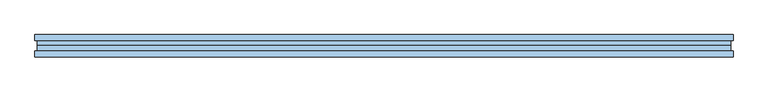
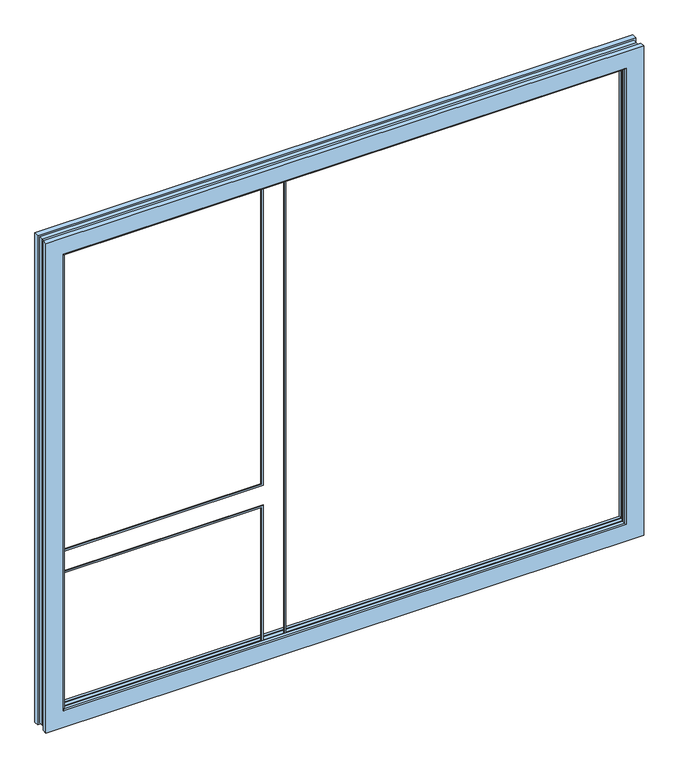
"""IFC4 building model written with IfcOpenShell, lengths in millimetres: window geometry, windowss9000gealanturntiltwindowsublightfixedwindow : windowss9000 2.60 x 2.25."""

import ifcopenshell
import ifcopenshell.guid

model = None  # the IFC model being written
_history = None  # IfcOwnerHistory: only IFC2X3 demands one
_inside = {}  # id of a spatial element -> (the spatial element, [elements in it])
_under = {}  # id of a project, library or spatial element -> (it, [spatial elements below it])
_declared = {}  # id of a project -> (the project, [libraries it declares])
_typed = {}  # id of a type object -> (the type object, [elements of that type])
_made_of = {}  # id of a material, layer set ... -> (it, [elements and type objects made of it])


def new_model(schema):
    """Start an empty IFC model of exactly this schema.

    Asked for "IFC4X3", IfcOpenShell would pick the latest addendum, in which some entities
    have other attributes; the version numbers below select the first issue.
    IFC2X3 requires an IfcOwnerHistory on every rooted entity: one is made here for all.
    """
    global model, _history
    if schema == "IFC4X3":
        model = ifcopenshell.file(schema_version=(4, 3, 0, 0))
    else:
        model = ifcopenshell.file(schema=schema)
    _inside.clear()
    _under.clear()
    _declared.clear()
    _typed.clear()
    _made_of.clear()
    _history = None
    if model.schema == "IFC2X3":
        org = make("IfcOrganization", Name="unknown")
        user = make(
            "IfcPersonAndOrganization",
            ThePerson=make("IfcPerson", FamilyName="unknown"),
            TheOrganization=org,
        )
        app = make(
            "IfcApplication",
            ApplicationDeveloper=org,
            Version="unknown",
            ApplicationFullName="unknown",
            ApplicationIdentifier="unknown",
        )
        _history = make(
            "IfcOwnerHistory",
            OwningUser=user,
            OwningApplication=app,
            ChangeAction="ADDED",
            CreationDate=0,
        )
    return model


def make(cls, **values):
    """One entity of the class cls with the attributes given. An attribute that is None is left unset."""
    return model.create_entity(
        cls, **{name: value for name, value in values.items() if value is not None}
    )


def rooted(cls, **values):
    """An entity with a GlobalId (a new one), such as an element, a storey or a relation."""
    return make(cls, GlobalId=ifcopenshell.guid.new(), OwnerHistory=_history, **values)


def si_unit(unit_type, name, prefix=None):
    """IfcSIUnit, for example si_unit("LENGTHUNIT", "METRE", prefix="MILLI")."""
    return make("IfcSIUnit", UnitType=unit_type, Prefix=prefix, Name=name)


def assignment(units):
    """IfcUnitAssignment: the units of a project."""
    return None if units is None else make("IfcUnitAssignment", Units=units)


def point(xyz):
    """IfcCartesianPoint."""
    return None if xyz is None else make("IfcCartesianPoint", Coordinates=xyz)


def direction(xyz):
    """IfcDirection."""
    return None if xyz is None else make("IfcDirection", DirectionRatios=xyz)


def frame(location, z_axis=None, x_axis=None):
    """IfcAxis2Placement3D, a coordinate frame: its origin and axes. An axis left out is left unset."""
    return make(
        "IfcAxis2Placement3D",
        Location=point(location),
        Axis=direction(z_axis),
        RefDirection=direction(x_axis),
    )


def origin():
    """The frame at (0, 0, 0) with its axes left unset."""
    return frame((0.0, 0.0, 0.0))


def place(relative_to, where):
    """IfcLocalPlacement: puts the frame where relative to a parent placement (None: the world)."""
    return make(
        "IfcLocalPlacement", PlacementRelTo=relative_to, RelativePlacement=where
    )


def context(
    kind, dimensions, precision=None, world=None, true_north=None, identifier=None
):
    """IfcGeometricRepresentationContext, for example the 3D "Model" context."""
    return make(
        "IfcGeometricRepresentationContext",
        ContextIdentifier=identifier,
        ContextType=kind,
        CoordinateSpaceDimension=dimensions,
        Precision=precision,
        WorldCoordinateSystem=world,
        TrueNorth=true_north,
    )


def project(units=None, contexts=None):
    """IfcProject with its units and contexts."""
    return rooted(
        "IfcProject",
        Name="project",
        RepresentationContexts=contexts,
        UnitsInContext=assignment(units),
    )


def spatial(cls, under=None, at=None, **own):
    """A site, building, storey or space (cls), placed at a placement, below another one or the project."""
    s = rooted(cls, ObjectPlacement=at, **own)
    if under is not None:
        _under.setdefault(under.id(), (under, []))[1].append(s)
    return s


def polyline(points):
    """IfcPolyline through the points."""
    return make("IfcPolyline", Points=[point(p) for p in points])


def ellipse_curve(where, semi_axis1, semi_axis2):
    """IfcEllipse in the frame where."""
    return make(
        "IfcEllipse", Position=where, SemiAxis1=semi_axis1, SemiAxis2=semi_axis2
    )


def outline(outer, holes=None, kind="AREA"):
    """IfcArbitraryClosedProfileDef: a profile drawn as a closed curve; with holes, ...WithVoids."""
    if holes is None:
        return make("IfcArbitraryClosedProfileDef", ProfileType=kind, OuterCurve=outer)
    return make(
        "IfcArbitraryProfileDefWithVoids",
        ProfileType=kind,
        OuterCurve=outer,
        InnerCurves=holes,
    )


def extrude(swept, where, along, depth):
    """IfcExtrudedAreaSolid: the profile swept, set in the frame where, extruded along a direction by depth."""
    return make(
        "IfcExtrudedAreaSolid",
        SweptArea=swept,
        Position=where,
        ExtrudedDirection=direction(along),
        Depth=depth,
    )


def faces_of(points, faces, orient=None, outer=None):
    """IfcFace entities. A face is a list of loops; a loop is a list of indices into points, from 0.

    orient and outer hold one flag for each loop. By default every Orientation is true, the
    first loop of a face is its IfcFaceOuterBound and the others are IfcFaceBound.
    """
    made = []
    for i, loops in enumerate(faces):
        bounds = []
        for j, loop in enumerate(loops):
            is_outer = j == 0 if outer is None else outer[i][j]
            bounds.append(
                make(
                    "IfcFaceOuterBound" if is_outer else "IfcFaceBound",
                    Bound=make("IfcPolyLoop", Polygon=[points[k] for k in loop]),
                    Orientation=True if orient is None else orient[i][j],
                )
            )
        made.append(make("IfcFace", Bounds=bounds))
    return made


def faceted_brep(points, faces, orient=None, outer=None, voids=None):
    """IfcFacetedBrep: a solid bounded by flat faces; with voids (closed shells), ...WithVoids."""
    shared = [point(p) for p in points]
    hull = make("IfcClosedShell", CfsFaces=faces_of(shared, faces, orient, outer))
    if voids is None:
        return make("IfcFacetedBrep", Outer=hull)
    return make(
        "IfcFacetedBrepWithVoids",
        Outer=hull,
        Voids=[
            make(cls, CfsFaces=faces_of(shared, fs, o, b)) for cls, fs, o, b in voids
        ],
    )


def shape(context_of_items, identifier, shape_type, items):
    """IfcShapeRepresentation: the items that make up one representation, for example the "Body"."""
    return make(
        "IfcShapeRepresentation",
        ContextOfItems=context_of_items,
        RepresentationIdentifier=identifier,
        RepresentationType=shape_type,
        Items=items,
    )


def source(mapping_origin, context_of_items, identifier, shape_type, items):
    """IfcRepresentationMap: a shape defined once, which mapped items show again and again."""
    return make(
        "IfcRepresentationMap",
        MappingOrigin=mapping_origin,
        MappedRepresentation=shape(context_of_items, identifier, shape_type, items),
    )


def transform(
    local_origin,
    x_axis=None,
    y_axis=None,
    z_axis=None,
    scale=None,
    scale2=None,
    scale3=None,
    uniform=True,
):
    """IfcCartesianTransformationOperator3D, or its non-uniform kind. x_axis, y_axis, z_axis: its Axis1, 2, 3."""
    if uniform:
        return make(
            "IfcCartesianTransformationOperator3D",
            Axis1=direction(x_axis),
            Axis2=direction(y_axis),
            LocalOrigin=point(local_origin),
            Scale=scale,
            Axis3=direction(z_axis),
        )
    return make(
        "IfcCartesianTransformationOperator3DnonUniform",
        Axis1=direction(x_axis),
        Axis2=direction(y_axis),
        LocalOrigin=point(local_origin),
        Scale=scale,
        Axis3=direction(z_axis),
        Scale2=scale2,
        Scale3=scale3,
    )


def mapped(mapping_source, mapping_target):
    """IfcMappedItem: shows the shape of a source again, moved by a transform."""
    return make(
        "IfcMappedItem", MappingSource=mapping_source, MappingTarget=mapping_target
    )


def made_of(thing, what):
    """Note that an element or type object is made of a material, layer set ...; save() writes the relation."""
    if what is not None:
        _made_of.setdefault(what.id(), (what, []))[1].append(thing)
    return thing


def element(
    cls,
    number,
    at=None,
    inside=None,
    cuts=None,
    type_object=None,
    material=None,
    context=None,
    identifier="Body",
    shape_type=None,
    held_by="IfcProductDefinitionShape",
    body=None,
    shapes=None,
    **own,
):
    """One element of the class cls, such as IfcWall. Its Tag is "e" and its number.

    at: its placement. inside: the storey or other place that contains it. cuts: it is an
    opening in that element (IfcRelVoidsElement). A single representation is given by context,
    identifier, shape_type and body (its items); several are given by shapes. held_by: the class
    of the entity that holds the representations. save() writes the other relations.
    """
    e = rooted(cls, Tag="e%d" % number, ObjectPlacement=at, **own)
    if body is not None:
        shapes = [shape(context, identifier, shape_type, body)]
    if shapes is not None:
        e.Representation = make(held_by, Representations=shapes)
    if inside is not None:
        _inside.setdefault(inside.id(), (inside, []))[1].append(e)
    if cuts is not None:
        rooted(
            "IfcRelVoidsElement", RelatingBuildingElement=cuts, RelatedOpeningElement=e
        )
    if type_object is not None:
        _typed.setdefault(type_object.id(), (type_object, []))[1].append(e)
    return made_of(e, material)


def aggregate(whole, parts):
    """IfcRelAggregates: a whole, such as a stair, and the parts it consists of."""
    return rooted("IfcRelAggregates", RelatingObject=whole, RelatedObjects=parts)


def save(model, path):
    """Write the relations noted so far, then the file.

    IfcRelAggregates (storeys below a building ...), IfcRelContainedInSpatialStructure (elements
    in a storey), IfcRelDefinesByType, IfcRelAssociatesMaterial and IfcRelDeclares: one each for
    every whole, place, type object, material and project.
    """
    for whole, parts in _under.values():
        aggregate(whole, parts)
    for where, things in _inside.values():
        rooted(
            "IfcRelContainedInSpatialStructure",
            RelatedElements=things,
            RelatingStructure=where,
        )
    for kind, things in _typed.values():
        rooted("IfcRelDefinesByType", RelatedObjects=things, RelatingType=kind)
    for what, things in _made_of.values():
        rooted("IfcRelAssociatesMaterial", RelatedObjects=things, RelatingMaterial=what)
    for by, libraries in _declared.values():
        rooted("IfcRelDeclares", RelatingContext=by, RelatedDefinitions=libraries)
    model.write(path)


def plane_surface(at):
    """IfcPlane: the flat surface through the origin of the frame at, square to its z axis."""
    return make("IfcPlane", Position=at)


def cylinder_surface(at, radius):
    """IfcCylindricalSurface: all points at the distance radius from the z axis of the frame at."""
    return make("IfcCylindricalSurface", Position=at, Radius=radius)


def advanced_brep(points, edges, surfaces, faces):
    """IfcAdvancedBrep: a solid bounded by faces that lie on surfaces and meet in shared edges.

    An edge is (start, end): straight between two places in points (the first is 0);
    or (start, end, curve); or (start, end, curve, False) where it runs against its curve.
    A face is (place in surfaces, loops), or (place, loops, False) where it looks against
    its surface's normal. A loop lists edges by number (the first is 1), with a minus sign
    where the edge is run from its end to its start. The first loop is the outer one.
    """
    corners = [point(p) for p in points]
    vertices = [make("IfcVertexPoint", VertexGeometry=c) for c in corners]
    made = []
    for start, end, *more in edges:
        made.append(
            make(
                "IfcEdgeCurve",
                EdgeStart=vertices[start],
                EdgeEnd=vertices[end],
                EdgeGeometry=more[0] if more else make("IfcPolyline", Points=[corners[start], corners[end]]),
                SameSense=more[1] if len(more) > 1 else True,
            )
        )
    hull = []
    for where, loops, *sense in faces:
        bounds = []
        for j, loop in enumerate(loops):
            ring = [make("IfcOrientedEdge", EdgeElement=made[abs(k) - 1], Orientation=k > 0) for k in loop]
            bounds.append(
                make(
                    "IfcFaceOuterBound" if j == 0 else "IfcFaceBound",
                    Bound=make("IfcEdgeLoop", EdgeList=ring),
                    Orientation=True,
                )
            )
        hull.append(make("IfcAdvancedFace", Bounds=bounds, FaceSurface=surfaces[where], SameSense=sense[0] if sense else True))
    return make("IfcAdvancedBrep", Outer=make("IfcClosedShell", CfsFaces=hull))


def window_f4dcbe76(model_context):
    return source(origin(), model_context, "Body", "SolidModel", [
        advanced_brep(
        [(1216.0, -106.02771, 3006.0), (1216.0, -106.02771, 924.0), (1218.5522708, -115.5529143, 921.4477292), (1218.5522708, -115.5529143, 3008.5522708), (1216.0, -105.0, 3006.0), (1216.0, -105.0, 924.0), (1246.1, -90.9886714, 3036.1), (1246.1, -90.9886714, 893.9), (1249.0781998, -105.0, 890.9218002), (1249.0781998, -105.0, 3039.0781998), (1246.1, -77.5, 3036.1), (1246.1, -77.5, 893.9), (1292.0, -99.0, 3082.0), (1292.0, -99.0, 848.0), (1292.0, -77.5, 848.0), (1292.0, -77.5, 3082.0), (1300.0, -120.0, 3090.0), (1300.0, -120.0, 840.0), (1300.0, -99.0, 840.0), (1300.0, -99.0, 3090.0), (1224.3478258, -120.0, 915.6521742), (1224.3478258, -120.0, 3014.3478258), (-1216.0, -106.02771, 924.0), (-1218.5522708, -115.5529143, 921.4477292), (-1216.0, -105.0, 924.0), (-1246.1, -90.9886714, 893.9), (-1249.0781998, -105.0, 890.9218002), (-1246.1, -77.5, 893.9), (-1292.0, -99.0, 848.0), (-1292.0, -77.5, 848.0), (-1300.0, -120.0, 840.0), (-1300.0, -99.0, 840.0), (-1224.3478258, -120.0, 915.6521742), (-1216.0, -106.02771, 3006.0), (-1218.5522708, -115.5529143, 3008.5522708), (-1216.0, -105.0, 3006.0), (-1246.1, -90.9886714, 3036.1), (-1249.0781998, -105.0, 3039.0781998), (-1246.1, -77.5, 3036.1), (-1292.0, -99.0, 3082.0), (-1292.0, -77.5, 3082.0), (-1300.0, -120.0, 3090.0), (-1300.0, -99.0, 3090.0), (-1224.3478258, -120.0, 3014.3478258)],
        [
            (0, 1),
            (1, 2),
            (2, 3),
            (3, 0),
            (4, 5),
            (5, 1),
            (0, 4),
            (6, 7),
            (7, 8),
            (8, 9),
            (9, 6),
            (10, 11),
            (11, 7),
            (6, 10),
            (12, 13),
            (13, 14),
            (14, 15),
            (15, 12),
            (16, 17),
            (17, 18),
            (18, 19),
            (19, 16),
            (2, 20, ellipse_curve(frame((1224.3478258, -114.0, 915.6521742), z_axis=(0.7071067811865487, 0.0, 0.7071067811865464), x_axis=(-0.7071067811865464, 0.0, 0.7071067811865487)), 8.4852814, 6.0)),
            (20, 21),
            (21, 3, ellipse_curve(frame((1224.3478258, -114.0, 3014.3478258), z_axis=(0.7071067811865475, 0.0, -0.7071067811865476), x_axis=(0.7071067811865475, 0.0, 0.7071067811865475)), 8.4852814, 6.0)),
            (1, 22),
            (22, 23),
            (23, 2),
            (5, 24),
            (24, 22),
            (7, 25),
            (25, 26),
            (26, 8),
            (11, 27),
            (27, 25),
            (13, 28),
            (28, 29),
            (29, 14),
            (17, 30),
            (30, 31),
            (31, 18),
            (23, 32, ellipse_curve(frame((-1224.3478258, -114.0, 915.6521742), z_axis=(0.7071067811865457, 0.0, -0.7071067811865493), x_axis=(0.7071067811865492, 0.0, 0.7071067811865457)), 8.4852814, 6.0)),
            (32, 20),
            (22, 33),
            (33, 34),
            (34, 23),
            (24, 35),
            (35, 33),
            (25, 36),
            (36, 37),
            (37, 26),
            (27, 38),
            (38, 36),
            (28, 39),
            (39, 40),
            (40, 29),
            (30, 41),
            (41, 42),
            (42, 31),
            (34, 43, ellipse_curve(frame((-1224.3478258, -114.0, 3014.3478258), z_axis=(-0.7071067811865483, 0.0, -0.7071067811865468), x_axis=(0.7071067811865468, 0.0, -0.7071067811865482)), 8.4852814, 6.0)),
            (43, 32),
            (33, 0),
            (3, 34),
            (35, 4),
            (37, 9),
            (36, 6),
            (38, 10),
            (40, 15),
            (39, 12),
            (42, 19),
            (41, 16),
            (43, 21),
        ],
        [
            plane_surface(frame((1218.5522708, -115.5529143, 3008.5522708), z_axis=(-0.9659258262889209, -0.25881904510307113, 0.0), x_axis=(0.0, 0.0, -1.0))),
            plane_surface(frame((1216.0, -106.02771, 3006.0), z_axis=(-1.0, 0.0, 0.0), x_axis=(0.0, 0.0, -1.0))),
            plane_surface(frame((1249.0781998, -105.0, 3039.0781998), z_axis=(-0.9781476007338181, -0.20791169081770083, 0.0), x_axis=(0.0, 0.0, -1.0))),
            plane_surface(frame((1246.1, -90.9886714, 3036.1), z_axis=(-1.0, 0.0, 0.0), x_axis=(0.0, 0.0, -1.0))),
            plane_surface(frame((1292.0, -77.5, 3082.0), z_axis=(1.0, 0.0, 0.0), x_axis=(0.0, 0.0, -1.0))),
            plane_surface(frame((1300.0, -99.0, 3090.0), z_axis=(1.0, 0.0, 0.0), x_axis=(0.0, 0.0, -1.0))),
            cylinder_surface(frame((1224.3478258, -114.0, 3090.0), z_axis=(0.0, 0.0, 1.0), x_axis=(0.0, -1.0, 0.0)), 6.0),
            plane_surface(frame((1218.5522708, -115.5529143, 921.4477292), z_axis=(0.0, -0.25881904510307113, 0.9659258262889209), x_axis=(-1.0, 0.0, 0.0))),
            plane_surface(frame((1216.0, -106.02771, 924.0), z_axis=(0.0, 0.0, 1.0), x_axis=(-1.0, 0.0, 0.0))),
            plane_surface(frame((1249.0781998, -105.0, 890.9218002), z_axis=(0.0, -0.20791169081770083, 0.9781476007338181), x_axis=(-1.0, 0.0, 0.0))),
            plane_surface(frame((1246.1, -90.9886714, 893.9), z_axis=(0.0, 0.0, 1.0), x_axis=(-1.0, 0.0, 0.0))),
            plane_surface(frame((1292.0, -77.5, 848.0), z_axis=(0.0, 0.0, -1.0), x_axis=(-1.0, 0.0, 0.0))),
            plane_surface(frame((1300.0, -99.0, 840.0), z_axis=(0.0, 0.0, -1.0), x_axis=(-1.0, 0.0, 0.0))),
            cylinder_surface(frame((1300.0, -114.0, 915.6521742), z_axis=(1.0, 0.0, 0.0), x_axis=(0.0, -1.0, 0.0)), 6.0),
            plane_surface(frame((-1218.5522708, -115.5529143, 921.4477292), z_axis=(0.9659258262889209, -0.25881904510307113, 0.0), x_axis=(0.0, 0.0, 1.0))),
            plane_surface(frame((-1216.0, -106.02771, 924.0), z_axis=(1.0, 0.0, 0.0), x_axis=(0.0, 0.0, 1.0))),
            plane_surface(frame((-1249.0781998, -105.0, 890.9218002), z_axis=(0.9781476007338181, -0.20791169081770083, 0.0), x_axis=(0.0, 0.0, 1.0))),
            plane_surface(frame((-1246.1, -90.9886714, 893.9), z_axis=(1.0, 0.0, 0.0), x_axis=(0.0, 0.0, 1.0))),
            plane_surface(frame((-1292.0, -77.5, 848.0), z_axis=(-1.0, 0.0, 0.0), x_axis=(0.0, 0.0, 1.0))),
            plane_surface(frame((-1300.0, -99.0, 840.0), z_axis=(-1.0, 0.0, 0.0), x_axis=(0.0, 0.0, 1.0))),
            cylinder_surface(frame((-1224.3478258, -114.0, 840.0), z_axis=(0.0, 0.0, -1.0), x_axis=(0.0, -1.0, 0.0)), 6.0),
            plane_surface(frame((-1218.5522708, -115.5529143, 3008.5522708), z_axis=(0.0, -0.25881904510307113, -0.9659258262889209), x_axis=(1.0, 0.0, 0.0))),
            plane_surface(frame((-1216.0, -106.02771, 3006.0), z_axis=(0.0, 0.0, -1.0), x_axis=(1.0, 0.0, 0.0))),
            plane_surface(frame((-1217.0, -105.0, 3007.0), z_axis=(0.0, 1.0, 0.0), x_axis=(1.0, 0.0, 0.0))),
            plane_surface(frame((-1249.0781998, -105.0, 3039.0781998), z_axis=(0.0, -0.20791169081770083, -0.9781476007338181), x_axis=(1.0, 0.0, 0.0))),
            plane_surface(frame((-1246.1, -90.9886714, 3036.1), z_axis=(0.0, 0.0, -1.0), x_axis=(1.0, 0.0, 0.0))),
            plane_surface(frame((-1246.1, -77.5, 3036.1), z_axis=(0.0, 1.0, 0.0), x_axis=(1.0, 0.0, 0.0))),
            plane_surface(frame((-1292.0, -77.5, 3082.0), z_axis=(0.0, 0.0, 1.0), x_axis=(1.0, 0.0, 0.0))),
            plane_surface(frame((-1292.0, -99.0, 3082.0), z_axis=(0.0, 1.0, 0.0), x_axis=(1.0, 0.0, 0.0))),
            plane_surface(frame((-1300.0, -99.0, 3090.0), z_axis=(0.0, 0.0, 1.0), x_axis=(1.0, 0.0, 0.0))),
            plane_surface(frame((-1300.0, -120.0, 3090.0), z_axis=(0.0, -1.0, 0.0), x_axis=(1.0, 0.0, 0.0))),
            cylinder_surface(frame((-1300.0, -114.0, 3014.3478258), z_axis=(-1.0, 0.0, 0.0), x_axis=(0.0, -1.0, 0.0)), 6.0),
        ],
        [
            (0, [[1, 2, 3, 4]]),
            (1, [[5, 6, -1, 7]]),
            (2, [[8, 9, 10, 11]]),
            (3, [[12, 13, -8, 14]]),
            (4, [[15, 16, 17, 18]]),
            (5, [[19, 20, 21, 22]]),
            (6, [[-3, 23, 24, 25]]),
            (7, [[26, 27, 28, -2]]),
            (8, [[29, 30, -26, -6]]),
            (9, [[31, 32, 33, -9]]),
            (10, [[34, 35, -31, -13]]),
            (11, [[36, 37, 38, -16]]),
            (12, [[39, 40, 41, -20]]),
            (13, [[-28, 42, 43, -23]]),
            (14, [[44, 45, 46, -27]]),
            (15, [[47, 48, -44, -30]]),
            (16, [[49, 50, 51, -32]]),
            (17, [[52, 53, -49, -35]]),
            (18, [[54, 55, 56, -37]]),
            (19, [[57, 58, 59, -40]]),
            (20, [[-46, 60, 61, -42]]),
            (21, [[62, -4, 63, -45]]),
            (22, [[64, -7, -62, -48]]),
            (23, [[-10, -33, -51, 65], [-5, -64, -47, -29]]),
            (24, [[66, -11, -65, -50]]),
            (25, [[67, -14, -66, -53]]),
            (26, [[-17, -38, -56, 68], [-12, -67, -52, -34]]),
            (27, [[69, -18, -68, -55]]),
            (28, [[-21, -41, -59, 70], [-15, -69, -54, -36]]),
            (29, [[71, -22, -70, -58]]),
            (30, [[-19, -71, -57, -39], [-24, -43, -61, 72]]),
            (31, [[-63, -25, -72, -60]]),
        ],
    ),
        faceted_brep([(1242.0, -37.5, 3032.0), (1242.0, -37.5, 898.0), (1242.0, -48.75, 898.0), (1242.0, -48.75, 3032.0), (1300.0, -37.5, 3090.0), (1300.0, -58.5, 3090.0), (1300.0, -58.5, 840.0), (1300.0, -37.5, 840.0), (1292.0, -77.5, 3082.0), (1292.0, -77.5, 848.0), (1292.0, -58.5, 848.0), (1292.0, -58.5, 3082.0), (1246.1, -48.75, 3036.1), (1246.1, -48.75, 893.9), (1246.1, -77.5, 893.9), (1246.1, -77.5, 3036.1), (-1242.0, -37.5, 898.0), (-1242.0, -48.75, 898.0), (-1300.0, -58.5, 840.0), (-1300.0, -37.5, 840.0), (-1292.0, -77.5, 848.0), (-1292.0, -58.5, 848.0), (-1246.1, -48.75, 893.9), (-1246.1, -77.5, 893.9), (-1242.0, -37.5, 3032.0), (-1242.0, -48.75, 3032.0), (-1300.0, -58.5, 3090.0), (-1300.0, -37.5, 3090.0), (-1292.0, -77.5, 3082.0), (-1292.0, -58.5, 3082.0), (-1246.1, -48.75, 3036.1), (-1246.1, -77.5, 3036.1)], [[[0, 1, 2, 3]], [[4, 5, 6, 7]], [[8, 9, 10, 11]], [[12, 13, 14, 15]], [[1, 16, 17, 2]], [[6, 18, 19, 7]], [[9, 20, 21, 10]], [[13, 22, 23, 14]], [[16, 24, 25, 17]], [[18, 26, 27, 19]], [[20, 28, 29, 21]], [[22, 30, 31, 23]], [[24, 0, 3, 25]], [[4, 7, 19, 27], [1, 0, 24, 16]], [[26, 5, 4, 27]], [[6, 5, 26, 18], [11, 10, 21, 29]], [[28, 8, 11, 29]], [[9, 8, 28, 20], [15, 14, 23, 31]], [[30, 12, 15, 31]], [[13, 12, 30, 22], [3, 2, 17, 25]]]),
        extrude(outline(polyline([(1635.3074153, -345.3390225), (3014.9709942, -345.3390225), (3014.9709942, -1224.9709942), (1635.3074153, -1224.9709942), (1635.3074153, -345.3390225)]), holes=[polyline([(3006.5, -353.8100167), (1643.7784096, -353.8100167), (1643.7784096, -1216.5), (3006.5, -1216.5), (3006.5, -353.8100167)])]), frame((0.0, -104.9982609, 0.0), z_axis=(0.0, 1.0, 0.0), x_axis=(0.0, 0.0, 1.0)), (0.0, 0.0, 1.0), 3.4982609),
        extrude(outline(polyline([(915.0518393, 1224.9481607), (3014.9481607, 1224.9481607), (3014.9481607, -254.9481607), (915.0518393, -254.9481607), (915.0518393, 1224.9481607)]), holes=[polyline([(3006.5, 1216.5), (923.5, 1216.5), (923.5, -246.5), (3006.5, -246.5), (3006.5, 1216.5)])]), frame((0.0, -105.0, 0.0), z_axis=(0.0, 1.0, 0.0), x_axis=(0.0, 0.0, 1.0)), (0.0, 0.0, 1.0), 3.0),
        extrude(outline(polyline([(914.8733205, -345.1833372), (1544.8166628, -345.1833372), (1544.8166628, -1225.1266795), (914.8733205, -1225.1266795), (914.8733205, -345.1833372)]), holes=[polyline([(1535.6899833, -354.3100167), (924.0, -354.3100167), (924.0, -1216.0), (1535.6899833, -1216.0), (1535.6899833, -354.3100167)])]), frame((0.0, -105.0015695, 0.0), z_axis=(0.0, 1.0, 0.0), x_axis=(0.0, 0.0, 1.0)), (0.0, 0.0, 1.0), 3.0),
    ])


if __name__ == "__main__":
    model = new_model("IFC4")
    model_context = context("Model", 3, world=origin())
    ifc_project = project(units=[si_unit("LENGTHUNIT", "METRE", prefix="MILLI")], contexts=[model_context])
    site = spatial("IfcSite", under=ifc_project)
    building = spatial("IfcBuilding", under=site)
    placement = place(None, origin())
    window_shape = window_f4dcbe76(model_context)
    element("IfcWindow", 1, ObjectType="windowss9000gealanturntiltwindowsublightfixedwindow : windowss9000 2.60 x 2.25", at=placement, inside=building, context=model_context, shape_type="MappedRepresentation", body=[
        mapped(window_shape, transform((0.0, 0.0, 0.0), x_axis=(1.0, 0.0, 0.0), y_axis=(0.0, 1.0, 0.0), z_axis=(0.0, 0.0, 1.0))),
    ])
    save(model, "model.ifc")
